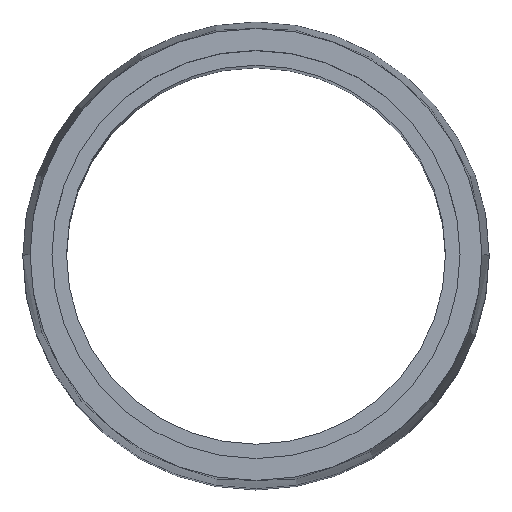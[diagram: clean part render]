
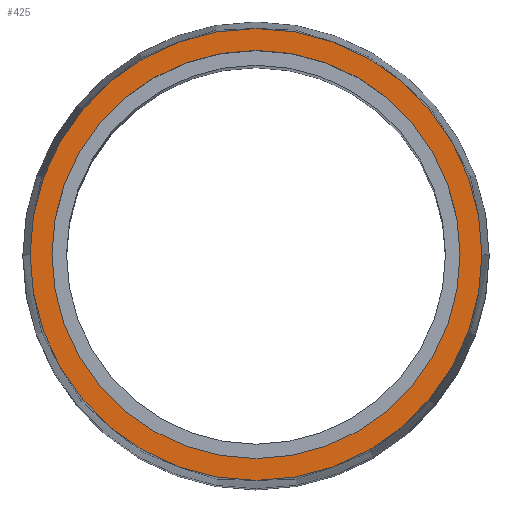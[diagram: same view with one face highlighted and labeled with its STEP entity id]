
A CAD part, top view. The second image highlights one B-rep face of the part: STEP entity #425.
In plain terms, the highlighted planar face has unit normal (0, 0, 1).
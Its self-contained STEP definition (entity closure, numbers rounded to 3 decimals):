
#38 = VERTEX_POINT ( 'NONE', #448 ) ;
#40 = CARTESIAN_POINT ( 'NONE',  ( 0., 0., 60. ) ) ;
#42 = DIRECTION ( 'NONE',  ( 0., 0., 1. ) ) ;
#53 = EDGE_LOOP ( 'NONE', ( #422, #324 ) ) ;
#79 = DIRECTION ( 'NONE',  ( 0., 0., 1. ) ) ;
#86 = PLANE ( 'NONE',  #110 ) ;
#92 = VERTEX_POINT ( 'NONE', #310 ) ;
#93 = AXIS2_PLACEMENT_3D ( 'NONE', #446, #117, #367 ) ;
#99 = FACE_BOUND ( 'NONE', #405, .T. ) ;
#110 = AXIS2_PLACEMENT_3D ( 'NONE', #449, #344, #224 ) ;
#117 = DIRECTION ( 'NONE',  ( 0., 0., 1. ) ) ;
#120 = DIRECTION ( 'NONE',  ( 0., 0., 1. ) ) ;
#131 = ORIENTED_EDGE ( 'NONE', *, *, #336, .F. ) ;
#139 = AXIS2_PLACEMENT_3D ( 'NONE', #40, #79, #411 ) ;
#143 = CIRCLE ( 'NONE', #242, 15.5 ) ;
#147 = CARTESIAN_POINT ( 'NONE',  ( 0., 0., 60. ) ) ;
#155 = CARTESIAN_POINT ( 'NONE',  ( -15.5, 0., 60. ) ) ;
#187 = CIRCLE ( 'NONE', #365, 15.5 ) ;
#191 = FACE_OUTER_BOUND ( 'NONE', #53, .T. ) ;
#211 = CIRCLE ( 'NONE', #139, 14. ) ;
#216 = DIRECTION ( 'NONE',  ( 1., 0., 0. ) ) ;
#224 = DIRECTION ( 'NONE',  ( 1., 0., 0. ) ) ;
#235 = VERTEX_POINT ( 'NONE', #303 ) ;
#239 = VERTEX_POINT ( 'NONE', #155 ) ;
#242 = AXIS2_PLACEMENT_3D ( 'NONE', #147, #42, #410 ) ;
#246 = EDGE_CURVE ( 'NONE', #239, #92, #143, .T. ) ;
#277 = EDGE_CURVE ( 'NONE', #235, #38, #409, .T. ) ;
#303 = CARTESIAN_POINT ( 'NONE',  ( 14., 0., 60. ) ) ;
#305 = EDGE_CURVE ( 'NONE', #92, #239, #187, .T. ) ;
#310 = CARTESIAN_POINT ( 'NONE',  ( 15.5, 0., 60. ) ) ;
#324 = ORIENTED_EDGE ( 'NONE', *, *, #305, .T. ) ;
#336 = EDGE_CURVE ( 'NONE', #38, #235, #211, .T. ) ;
#344 = DIRECTION ( 'NONE',  ( 0., 0., 1. ) ) ;
#365 = AXIS2_PLACEMENT_3D ( 'NONE', #437, #120, #216 ) ;
#367 = DIRECTION ( 'NONE',  ( 1., 0., 0. ) ) ;
#405 = EDGE_LOOP ( 'NONE', ( #420, #131 ) ) ;
#409 = CIRCLE ( 'NONE', #93, 14. ) ;
#410 = DIRECTION ( 'NONE',  ( 1., 0., 0. ) ) ;
#411 = DIRECTION ( 'NONE',  ( 1., 0., 0. ) ) ;
#420 = ORIENTED_EDGE ( 'NONE', *, *, #277, .F. ) ;
#422 = ORIENTED_EDGE ( 'NONE', *, *, #246, .T. ) ;
#425 = ADVANCED_FACE ( 'NONE', ( #99, #191 ), #86, .T. ) ;
#437 = CARTESIAN_POINT ( 'NONE',  ( 0., 0., 60. ) ) ;
#446 = CARTESIAN_POINT ( 'NONE',  ( 0., 0., 60. ) ) ;
#448 = CARTESIAN_POINT ( 'NONE',  ( -14., 0., 60. ) ) ;
#449 = CARTESIAN_POINT ( 'NONE',  ( 0., 0., 60. ) ) ;
